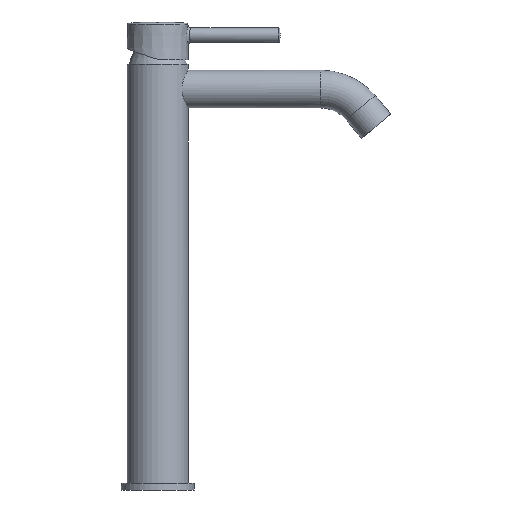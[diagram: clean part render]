
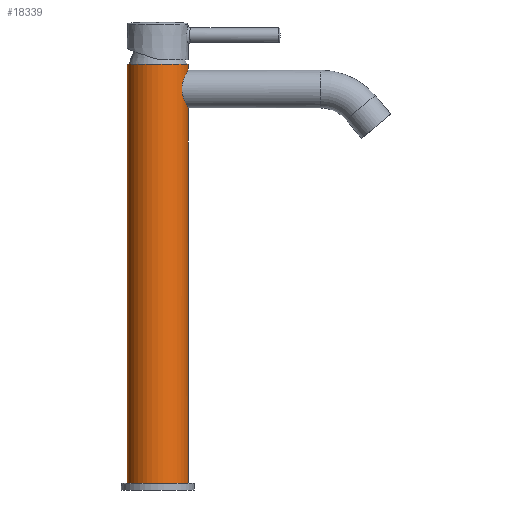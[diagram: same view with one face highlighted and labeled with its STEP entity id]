
A CAD part, left-side view. The second image highlights one B-rep face of the part: STEP entity #18339.
In plain terms, the highlighted cylindrical face has radius 21 mm (diameter 42 mm), a partial arc.
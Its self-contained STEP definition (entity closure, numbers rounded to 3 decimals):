
#1420=CARTESIAN_POINT('',(0.,-21.,288.5));
#1421=CARTESIAN_POINT('',(-0.583,-21.,288.5));
#1422=CARTESIAN_POINT('',(-1.758,-20.951,
288.421));
#1423=CARTESIAN_POINT('',(-3.506,-20.73,
288.062));
#1424=CARTESIAN_POINT('',(-5.238,-20.362,
287.447));
#1425=CARTESIAN_POINT('',(-6.926,-19.851,
286.558));
#1426=CARTESIAN_POINT('',(-8.525,-19.216,
285.383));
#1427=CARTESIAN_POINT('',(-9.96,-18.508,
283.937));
#1428=CARTESIAN_POINT('',(-11.144,-17.813,
282.293));
#1429=CARTESIAN_POINT('',(-12.022,-17.226,
280.565));
#1430=CARTESIAN_POINT('',(-12.604,-16.8,
278.843));
#1431=CARTESIAN_POINT('',(-12.93,-16.548,
277.158));
#1432=CARTESIAN_POINT('',(-13.035,-16.465,
275.5));
#1433=CARTESIAN_POINT('',(-12.93,-16.548,
273.842));
#1434=CARTESIAN_POINT('',(-12.604,-16.8,
272.156));
#1435=CARTESIAN_POINT('',(-12.022,-17.226,
270.435));
#1436=CARTESIAN_POINT('',(-11.144,-17.813,
268.707));
#1437=CARTESIAN_POINT('',(-9.96,-18.508,
267.063));
#1438=CARTESIAN_POINT('',(-8.525,-19.216,
265.617));
#1439=CARTESIAN_POINT('',(-6.926,-19.851,
264.442));
#1440=CARTESIAN_POINT('',(-5.238,-20.362,
263.553));
#1441=CARTESIAN_POINT('',(-3.506,-20.73,
262.938));
#1442=CARTESIAN_POINT('',(-1.758,-20.951,
262.579));
#1443=CARTESIAN_POINT('',(-0.583,-21.,262.5));
#1444=CARTESIAN_POINT('',(0.,-21.,262.5));
#1481=DIRECTION('',(0.,0.,1.));
#1482=VECTOR('',#1481,4.);
#1483=CARTESIAN_POINT('',(0.,-21.,288.5));
#1484=LINE('',#1483,#1482);
#1533=CARTESIAN_POINT('',(0.,0.,4.5));
#1534=DIRECTION('',(0.,0.,-1.));
#1535=DIRECTION('',(0.,-1.,0.));
#1536=AXIS2_PLACEMENT_3D('',#1533,#1534,#1535);
#1538=DIRECTION('',(0.,0.,1.));
#1539=VECTOR('',#1538,288.);
#1540=CARTESIAN_POINT('',(0.,21.,4.5));
#1541=LINE('',#1540,#1539);
#1542=DIRECTION('',(0.,0.,-1.));
#1543=VECTOR('',#1542,258.);
#1544=CARTESIAN_POINT('',(0.,-21.,262.5));
#1545=LINE('',#1544,#1543);
#1551=CARTESIAN_POINT('',(0.,0.,292.5));
#1552=DIRECTION('',(0.,0.,-1.));
#1553=DIRECTION('',(0.,-1.,0.));
#1554=AXIS2_PLACEMENT_3D('',#1551,#1552,#1553);
#16225=CARTESIAN_POINT('',(0.,-21.,288.5));
#16226=VERTEX_POINT('',#16225);
#16227=CARTESIAN_POINT('',(0.,-21.,262.5));
#16228=VERTEX_POINT('',#16227);
#16233=CARTESIAN_POINT('',(0.,21.,292.5));
#16234=CARTESIAN_POINT('',(0.,-21.,292.5));
#16235=VERTEX_POINT('',#16233);
#16236=VERTEX_POINT('',#16234);
#16241=CARTESIAN_POINT('',(0.,-21.,4.5));
#16242=CARTESIAN_POINT('',(0.,21.,4.5));
#16243=VERTEX_POINT('',#16241);
#16244=VERTEX_POINT('',#16242);
#18325=CARTESIAN_POINT('',(0.,0.,-4.5));
#18326=DIRECTION('',(0.,0.,1.));
#18327=DIRECTION('',(0.,-1.,0.));
#18328=AXIS2_PLACEMENT_3D('',#18325,#18326,#18327);
#18329=CYLINDRICAL_SURFACE('',#18328,21.);
#18330=ORIENTED_EDGE('',*,*,#18254,.T.);
#18331=ORIENTED_EDGE('',*,*,#18237,.T.);
#18333=ORIENTED_EDGE('',*,*,#18332,.F.);
#18334=ORIENTED_EDGE('',*,*,#18233,.F.);
#18335=ORIENTED_EDGE('',*,*,#18204,.T.);
#18336=ORIENTED_EDGE('',*,*,#18230,.T.);
#18337=EDGE_LOOP('',(#18330,#18331,#18333,#18334,#18335,#18336));
#18338=FACE_OUTER_BOUND('',#18337,.F.);
#18339=ADVANCED_FACE('',(#18338),#18329,.T.);
#1445=B_SPLINE_CURVE_WITH_KNOTS('',3,(#1420,#1421,#1422,#1423,#1424,#1425,#1426,
#1427,#1428,#1429,#1430,#1431,#1432,#1433,#1434,#1435,#1436,#1437,#1438,#1439,
#1440,#1441,#1442,#1443,#1444),.UNSPECIFIED.,.F.,.F.,(4,1,1,1,1,1,1,1,1,1,1,1,1,
1,1,1,1,1,1,1,1,1,4),(0.,0.045,0.091,
0.136,0.182,0.227,0.273,
0.318,0.364,0.409,0.455,0.5,
0.545,0.591,0.636,0.682,
0.727,0.773,0.818,0.864,
0.909,0.955,1.),.UNSPECIFIED.);
#1537=CIRCLE('',#1536,21.);
#1555=CIRCLE('',#1554,21.);
#18204=EDGE_CURVE('',#16226,#16228,#1445,.T.);
#18230=EDGE_CURVE('',#16228,#16243,#1545,.T.);
#18233=EDGE_CURVE('',#16226,#16236,#1484,.T.);
#18237=EDGE_CURVE('',#16244,#16235,#1541,.T.);
#18254=EDGE_CURVE('',#16243,#16244,#1537,.T.);
#18332=EDGE_CURVE('',#16236,#16235,#1555,.T.);
